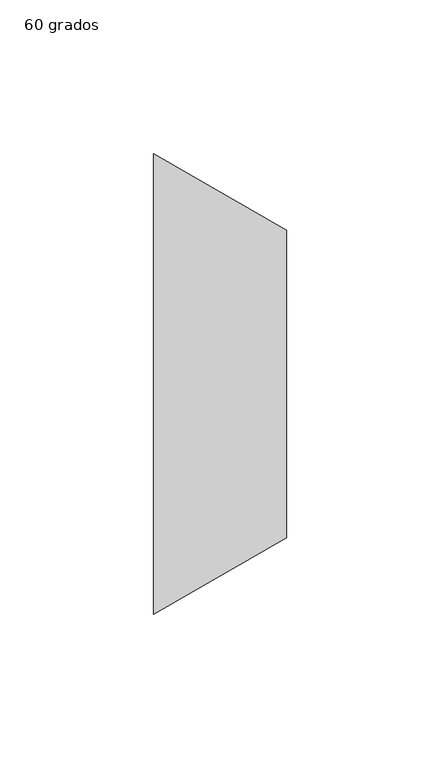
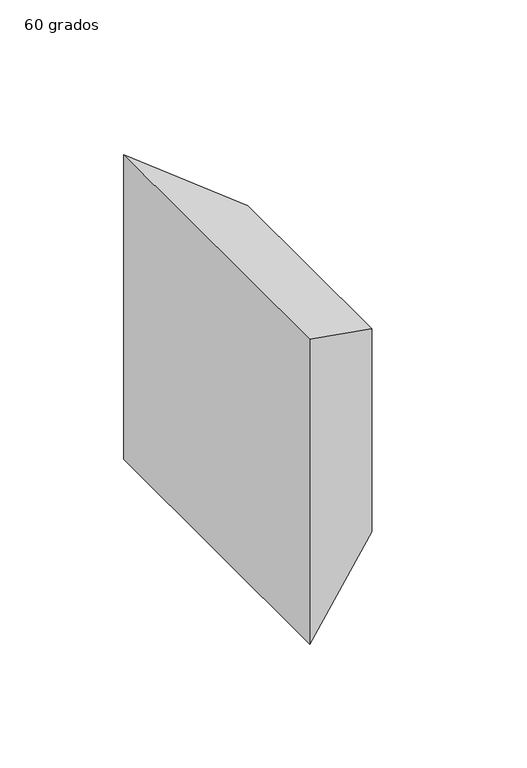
"""IFC4 building model written with IfcOpenShell, lengths in millimetres: duct fitting geometry, M_Transición rectangular - Ángulo : 60 grados."""

from ifc_helpers import new_model, si_unit, origin, place, context, project, spatial, faceted_brep, source, transform, mapped, element, save


def duct_fitting_60_grados_5fd80378(model_context):
    return source(origin(), model_context, "Body", "Brep", [
        faceted_brep([(43.3012702, -50.0, 50.0), (43.3012702, -50.0, -50.0), (43.3012702, 50.0, -50.0), (43.3012702, 50.0, 50.0), (0.0, -75.0, 75.0), (0.0, 75.0, 75.0), (0.0, 75.0, -75.0), (0.0, -75.0, -75.0)], [[[0, 1, 2, 3]], [[4, 5, 6, 7]], [[4, 7, 1, 0]], [[7, 6, 2, 1]], [[6, 5, 3, 2]], [[5, 4, 0, 3]]]),
    ])


if __name__ == "__main__":
    model = new_model("IFC4")
    model_context = context("Model", 3, world=origin())
    ifc_project = project(units=[si_unit("LENGTHUNIT", "METRE", prefix="MILLI")], contexts=[model_context])
    site = spatial("IfcSite", under=ifc_project)
    building = spatial("IfcBuilding", under=site)
    placement = place(None, origin())
    duct_fitting_60_grados_shape = duct_fitting_60_grados_5fd80378(model_context)
    element("IfcDuctFitting", 1, ObjectType="M_Transición rectangular - Ángulo : 60 grados", at=placement, inside=building, context=model_context, shape_type="MappedRepresentation", body=[
        mapped(duct_fitting_60_grados_shape, transform((0.0, 0.0, 0.0), x_axis=(1.0, 0.0, 0.0), y_axis=(0.0, 1.0, 0.0), z_axis=(0.0, 0.0, 1.0))),
    ])
    save(model, "model.ifc")
